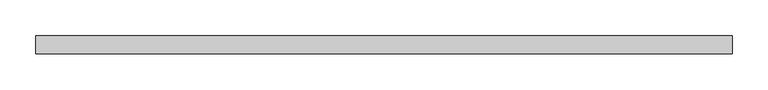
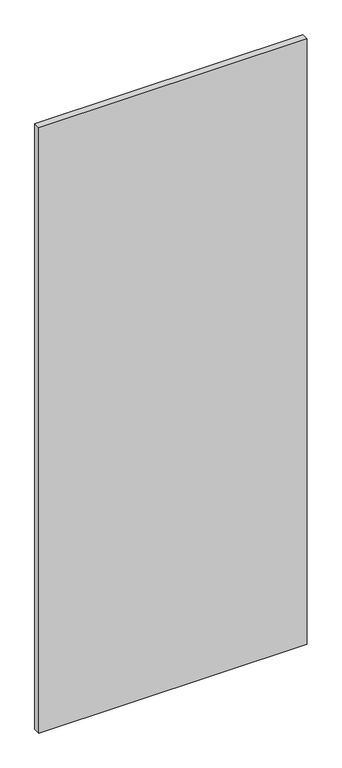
"""IFC4 building model written with IfcOpenShell, lengths in millimetres: plate geometry, 系统嵌板 : 玻璃."""

from ifc_helpers import new_model, si_unit, origin, origin_with_axes, place, context, project, spatial, polyline, outline, extrude, source, transform, mapped, element, save


def plate_675320a8(model_context):
    return source(origin(), model_context, "Body", "SweptSolid", [
        extrude(outline(polyline([(487.5, -12.5), (-487.5, -12.5), (-487.5, 12.5), (487.5, 12.5), (487.5, -12.5)])), origin_with_axes(), (0.0, 0.0, 1.0), 2325.0),
    ])


if __name__ == "__main__":
    model = new_model("IFC4")
    model_context = context("Model", 3, world=origin())
    ifc_project = project(units=[si_unit("LENGTHUNIT", "METRE", prefix="MILLI")], contexts=[model_context])
    site = spatial("IfcSite", under=ifc_project)
    building = spatial("IfcBuilding", under=site)
    placement = place(None, origin())
    plate_shape = plate_675320a8(model_context)
    element("IfcPlate", 1, ObjectType="系统嵌板 : 玻璃", at=placement, inside=building, context=model_context, shape_type="MappedRepresentation", body=[
        mapped(plate_shape, transform((0.0, 0.0, 0.0), x_axis=(1.0, 0.0, 0.0), y_axis=(0.0, 1.0, 0.0), z_axis=(0.0, 0.0, 1.0))),
    ])
    save(model, "model.ifc")
